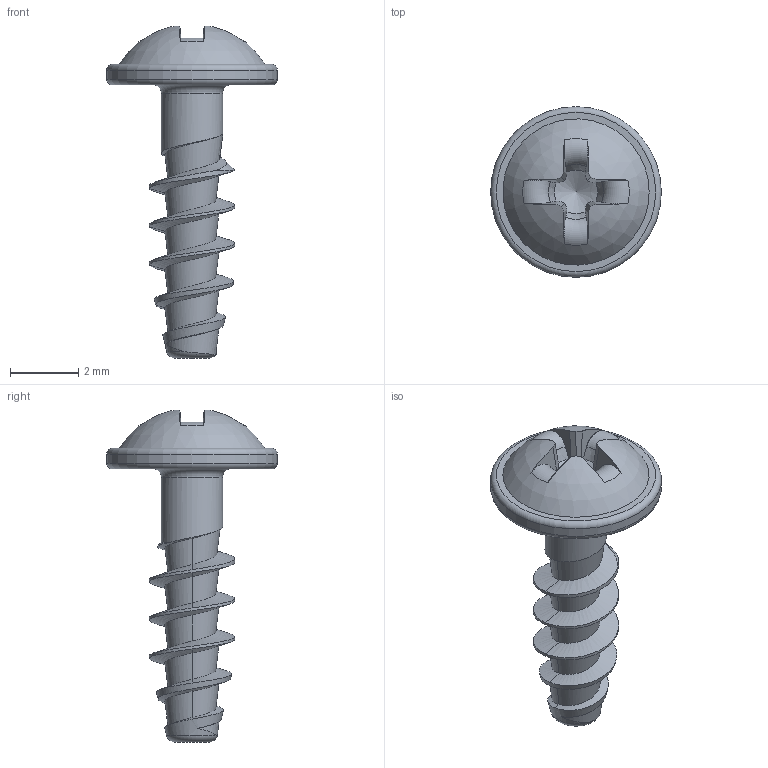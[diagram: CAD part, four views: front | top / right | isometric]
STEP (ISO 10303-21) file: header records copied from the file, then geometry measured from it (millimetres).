
FILE_DESCRIPTION(/* description */ (''),/* implementation_level */ '2;1');
FILE_NAME(/* name */ 'KN1031-Neu-STS-25x8-H1.step',/* time_stamp */ '2017-10-12T13:05:27+02:00',/* author */ (''),/* organization */ (''),/* preprocessor_version */ 'ST-DEVELOPER v16',/* originating_system */ 'SIEMENS PLM Software NX 10.0',/* authorisation */ '');
FILE_SCHEMA (('AUTOMOTIVE_DESIGN { 1 0 10303 214 3 1 1 1 }'));
Length unit declared in the file: millimetre
Products named in the file (1): KN1031-Neu-STS-25x8-H1
Bounding box: 5 x 5 x 9.72 mm (x, y, z)
Volume: 37.5 mm3; surface area: 115.1 mm2
Topology: 1 solids, 1 shells, 57 faces, 149 edges, 95 vertices
Faces by surface type: plane 19, bspline 18, torus 8, cone 7, cylinder 4, sphere 1
Full cylindrical faces by diameter (mm): 1.8 x1, 5 x1
Entity records: 2909 total; most frequent: CARTESIAN_POINT 1725, ORIENTED_EDGE 266, DIRECTION 185, EDGE_CURVE 133, VERTEX_POINT 89, AXIS2_PLACEMENT_3D 79, B_SPLINE_CURVE_WITH_KNOTS 66, EDGE_LOOP 65
